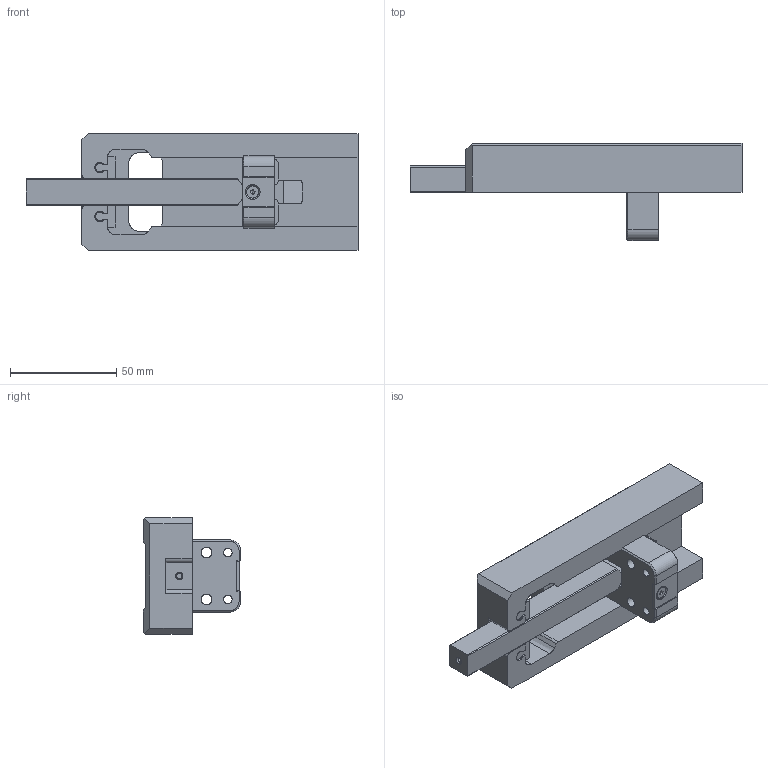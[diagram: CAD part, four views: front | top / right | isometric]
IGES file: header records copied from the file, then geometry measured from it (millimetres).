
Start section: SolidWorks IGES file using analytic representation for surfaces
Global section: file name: G:\CAD\Hakdrag\SA\SA-60\SA-60-130-00.IGS; native system: SolidWorks 2015; preprocessor: SolidWorks 2015; author: ChBe; date: 150616.065534; units: millimetre
Bounding box: 156.32 x 45.7 x 55 mm (x, y, z)
Surface area: 37438.8 mm2 (no closed solid volume)
Topology: 0 solids, 0 shells, 161 faces, 1790 edges, 1788 vertices
Faces by surface type: bspline 100, revolution 61
